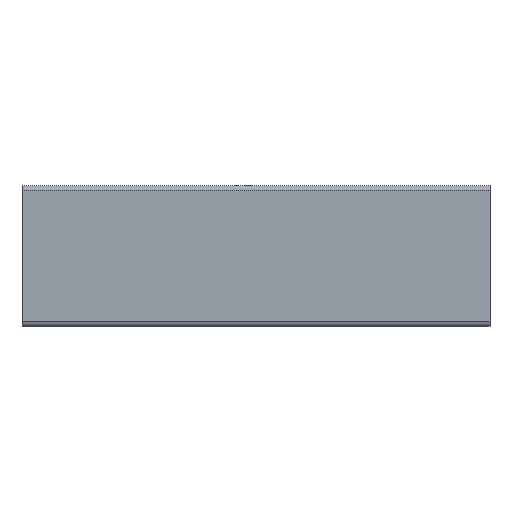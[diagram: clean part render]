
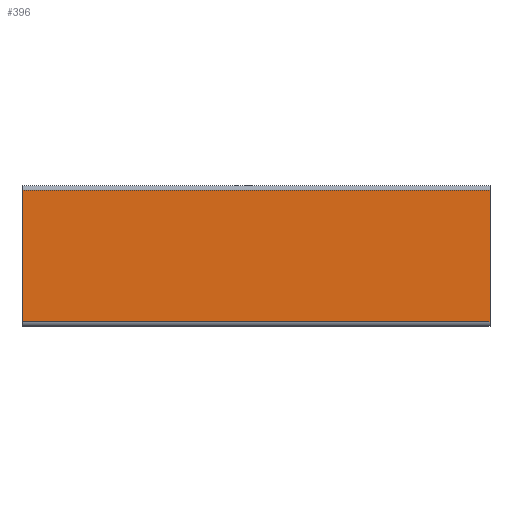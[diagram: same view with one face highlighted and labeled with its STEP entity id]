
A CAD part, left-side view. The second image highlights one B-rep face of the part: STEP entity #396.
In plain terms, the highlighted planar face has unit normal (-1, 0, 0).
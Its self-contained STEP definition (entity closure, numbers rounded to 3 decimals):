
#83 = PLANE('',#84);
#84 = AXIS2_PLACEMENT_3D('',#85,#86,#87);
#85 = CARTESIAN_POINT('',(-12.,-11.,100.));
#86 = DIRECTION('',(0.,0.,-1.));
#87 = DIRECTION('',(0.,1.,0.));
#137 = PLANE('',#138);
#138 = AXIS2_PLACEMENT_3D('',#139,#140,#141);
#139 = CARTESIAN_POINT('',(-12.,-11.,0.));
#140 = DIRECTION('',(0.,0.,-1.));
#141 = DIRECTION('',(0.,1.,0.));
#278 = CYLINDRICAL_SURFACE('',#279,1.);
#279 = AXIS2_PLACEMENT_3D('',#280,#281,#282);
#280 = CARTESIAN_POINT('',(-14.,14.,0.));
#281 = DIRECTION('',(0.,0.,-1.));
#282 = DIRECTION('',(1.,0.,0.));
#316 = VERTEX_POINT('',#317);
#317 = CARTESIAN_POINT('',(-15.,14.,100.));
#343 = EDGE_CURVE('',#344,#316,#346,.T.);
#344 = VERTEX_POINT('',#345);
#345 = CARTESIAN_POINT('',(-15.,14.,0.));
#346 = SURFACE_CURVE('',#347,(#351,#358),.PCURVE_S1.);
#347 = LINE('',#348,#349);
#348 = CARTESIAN_POINT('',(-15.,14.,0.));
#349 = VECTOR('',#350,1.);
#350 = DIRECTION('',(0.,0.,1.));
#351 = PCURVE('',#278,#352);
#352 = DEFINITIONAL_REPRESENTATION('',(#353),#357);
#353 = LINE('',#354,#355);
#354 = CARTESIAN_POINT('',(-3.142,0.));
#355 = VECTOR('',#356,1.);
#356 = DIRECTION('',(-0.,-1.));
#357 = ( GEOMETRIC_REPRESENTATION_CONTEXT(2) 
PARAMETRIC_REPRESENTATION_CONTEXT() REPRESENTATION_CONTEXT('2D SPACE',''
  ) );
#358 = PCURVE('',#359,#364);
#359 = PLANE('',#360);
#360 = AXIS2_PLACEMENT_3D('',#361,#362,#363);
#361 = CARTESIAN_POINT('',(-15.,14.,0.));
#362 = DIRECTION('',(1.,0.,-0.));
#363 = DIRECTION('',(0.,-1.,0.));
#364 = DEFINITIONAL_REPRESENTATION('',(#365),#369);
#365 = LINE('',#366,#367);
#366 = CARTESIAN_POINT('',(0.,0.));
#367 = VECTOR('',#368,1.);
#368 = DIRECTION('',(0.,-1.));
#369 = ( GEOMETRIC_REPRESENTATION_CONTEXT(2) 
PARAMETRIC_REPRESENTATION_CONTEXT() REPRESENTATION_CONTEXT('2D SPACE',''
  ) );
#396 = ADVANCED_FACE('',(#397),#359,.F.);
#397 = FACE_BOUND('',#398,.F.);
#398 = EDGE_LOOP('',(#399,#400,#423,#451));
#399 = ORIENTED_EDGE('',*,*,#343,.T.);
#400 = ORIENTED_EDGE('',*,*,#401,.T.);
#401 = EDGE_CURVE('',#316,#402,#404,.T.);
#402 = VERTEX_POINT('',#403);
#403 = CARTESIAN_POINT('',(-15.,-14.,100.));
#404 = SURFACE_CURVE('',#405,(#409,#416),.PCURVE_S1.);
#405 = LINE('',#406,#407);
#406 = CARTESIAN_POINT('',(-15.,14.,100.));
#407 = VECTOR('',#408,1.);
#408 = DIRECTION('',(0.,-1.,0.));
#409 = PCURVE('',#359,#410);
#410 = DEFINITIONAL_REPRESENTATION('',(#411),#415);
#411 = LINE('',#412,#413);
#412 = CARTESIAN_POINT('',(0.,-100.));
#413 = VECTOR('',#414,1.);
#414 = DIRECTION('',(1.,0.));
#415 = ( GEOMETRIC_REPRESENTATION_CONTEXT(2) 
PARAMETRIC_REPRESENTATION_CONTEXT() REPRESENTATION_CONTEXT('2D SPACE',''
  ) );
#416 = PCURVE('',#83,#417);
#417 = DEFINITIONAL_REPRESENTATION('',(#418),#422);
#418 = LINE('',#419,#420);
#419 = CARTESIAN_POINT('',(25.,-3.));
#420 = VECTOR('',#421,1.);
#421 = DIRECTION('',(-1.,0.));
#422 = ( GEOMETRIC_REPRESENTATION_CONTEXT(2) 
PARAMETRIC_REPRESENTATION_CONTEXT() REPRESENTATION_CONTEXT('2D SPACE',''
  ) );
#423 = ORIENTED_EDGE('',*,*,#424,.F.);
#424 = EDGE_CURVE('',#425,#402,#427,.T.);
#425 = VERTEX_POINT('',#426);
#426 = CARTESIAN_POINT('',(-15.,-14.,0.));
#427 = SURFACE_CURVE('',#428,(#432,#439),.PCURVE_S1.);
#428 = LINE('',#429,#430);
#429 = CARTESIAN_POINT('',(-15.,-14.,0.));
#430 = VECTOR('',#431,1.);
#431 = DIRECTION('',(0.,0.,1.));
#432 = PCURVE('',#359,#433);
#433 = DEFINITIONAL_REPRESENTATION('',(#434),#438);
#434 = LINE('',#435,#436);
#435 = CARTESIAN_POINT('',(28.,0.));
#436 = VECTOR('',#437,1.);
#437 = DIRECTION('',(0.,-1.));
#438 = ( GEOMETRIC_REPRESENTATION_CONTEXT(2) 
PARAMETRIC_REPRESENTATION_CONTEXT() REPRESENTATION_CONTEXT('2D SPACE',''
  ) );
#439 = PCURVE('',#440,#445);
#440 = CYLINDRICAL_SURFACE('',#441,1.);
#441 = AXIS2_PLACEMENT_3D('',#442,#443,#444);
#442 = CARTESIAN_POINT('',(-14.,-14.,0.));
#443 = DIRECTION('',(0.,0.,-1.));
#444 = DIRECTION('',(1.,0.,0.));
#445 = DEFINITIONAL_REPRESENTATION('',(#446),#450);
#446 = LINE('',#447,#448);
#447 = CARTESIAN_POINT('',(-3.142,0.));
#448 = VECTOR('',#449,1.);
#449 = DIRECTION('',(-0.,-1.));
#450 = ( GEOMETRIC_REPRESENTATION_CONTEXT(2) 
PARAMETRIC_REPRESENTATION_CONTEXT() REPRESENTATION_CONTEXT('2D SPACE',''
  ) );
#451 = ORIENTED_EDGE('',*,*,#452,.F.);
#452 = EDGE_CURVE('',#344,#425,#453,.T.);
#453 = SURFACE_CURVE('',#454,(#458,#465),.PCURVE_S1.);
#454 = LINE('',#455,#456);
#455 = CARTESIAN_POINT('',(-15.,14.,0.));
#456 = VECTOR('',#457,1.);
#457 = DIRECTION('',(0.,-1.,0.));
#458 = PCURVE('',#359,#459);
#459 = DEFINITIONAL_REPRESENTATION('',(#460),#464);
#460 = LINE('',#461,#462);
#461 = CARTESIAN_POINT('',(0.,0.));
#462 = VECTOR('',#463,1.);
#463 = DIRECTION('',(1.,0.));
#464 = ( GEOMETRIC_REPRESENTATION_CONTEXT(2) 
PARAMETRIC_REPRESENTATION_CONTEXT() REPRESENTATION_CONTEXT('2D SPACE',''
  ) );
#465 = PCURVE('',#137,#466);
#466 = DEFINITIONAL_REPRESENTATION('',(#467),#471);
#467 = LINE('',#468,#469);
#468 = CARTESIAN_POINT('',(25.,-3.));
#469 = VECTOR('',#470,1.);
#470 = DIRECTION('',(-1.,0.));
#471 = ( GEOMETRIC_REPRESENTATION_CONTEXT(2) 
PARAMETRIC_REPRESENTATION_CONTEXT() REPRESENTATION_CONTEXT('2D SPACE',''
  ) );
